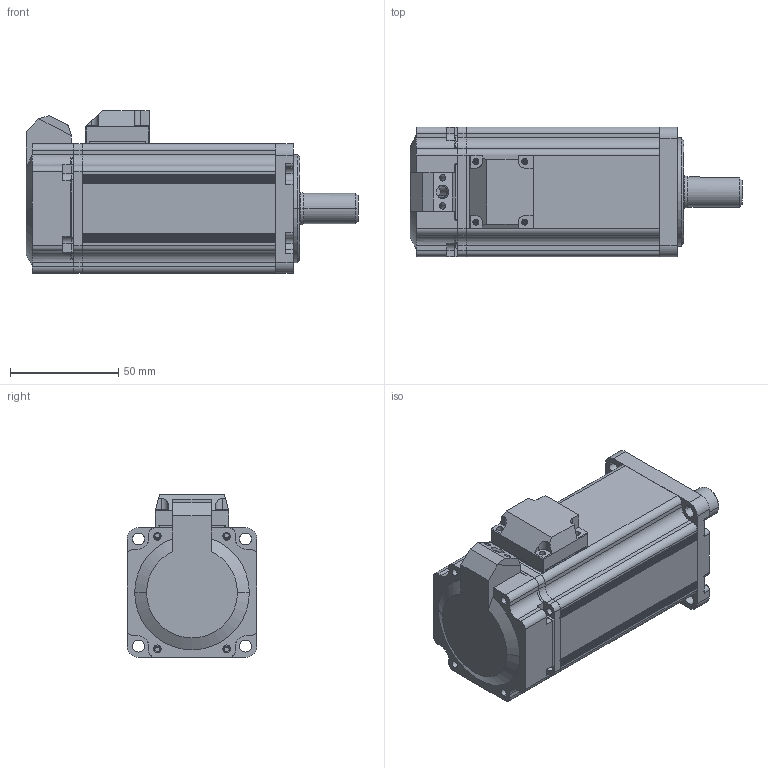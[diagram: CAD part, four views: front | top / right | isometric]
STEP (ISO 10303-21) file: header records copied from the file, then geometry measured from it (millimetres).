
FILE_DESCRIPTION (( 'STEP AP203' ), '1' );
FILE_NAME ('MS6-60-腴揤侜督.STEP', '2020-01-16T04:49:22', ( '' ), ( '' ), 'SwSTEP 2.0', 'SolidWorks 2016', '' );
FILE_SCHEMA (( 'CONFIG_CONTROL_DESIGN' ));
Length unit declared in the file: millimetre
Products named in the file (1): MS6-60-腴揤侜督
Bounding box: 153.5 x 60 x 75.3 mm (x, y, z)
Surface area: 48501.7 mm2 (no closed solid volume)
Topology: 0 solids, 13 shells, 419 faces, 1420 edges, 1013 vertices
Faces by surface type: cylinder 258, plane 146, cone 11, bspline 2, sphere 2
Entity records: 15859 total; most frequent: CARTESIAN_POINT 2995, DIRECTION 2897, ORIENTED_EDGE 2367, EDGE_CURVE 1420, AXIS2_PLACEMENT_3D 1081, VERTEX_POINT 1013, VECTOR 735, LINE 735
